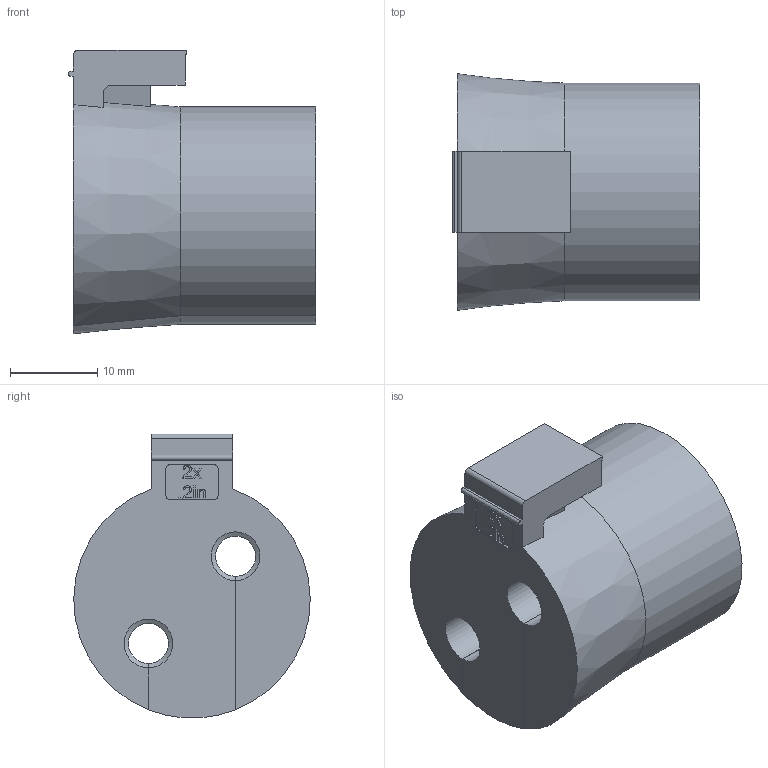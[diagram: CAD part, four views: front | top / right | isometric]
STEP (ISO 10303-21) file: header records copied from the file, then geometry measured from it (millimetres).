
FILE_DESCRIPTION(/* description */ (''),/* implementation_level */ '2;1');
FILE_NAME(/* name */ 'H:\SapWorkDir\Inventor\MP1\ConvertTempPath\87_12_121336_00_A_220525_KDT-X 2x5.stp',/* time_stamp */ '2022-05-25T12:18:13+02:00',/* author */ ('BAUER'),/* organization */ (''),/* preprocessor_version */ 'ST-DEVELOPER v16.13',/* originating_system */ 'Autodesk Inventor 2018',/* authorisation */ '');
FILE_SCHEMA (('AUTOMOTIVE_DESIGN { 1 0 10303 214 3 1 1 }'));
Length unit declared in the file: millimetre
Products named in the file (1): 121336
Bounding box: 28.4 x 27.14 x 32.53 mm (x, y, z)
Volume: 13409.1 mm3; surface area: 5567.1 mm2
Topology: 1 solids, 1 shells, 122 faces, 340 edges, 228 vertices
Faces by surface type: plane 74, bspline 25, cylinder 17, cone 6
Entity records: 4067 total; most frequent: CARTESIAN_POINT 1020, ORIENTED_EDGE 680, DIRECTION 520, EDGE_CURVE 340, LINE 244, VECTOR 244, VERTEX_POINT 228, AXIS2_PLACEMENT_3D 138
